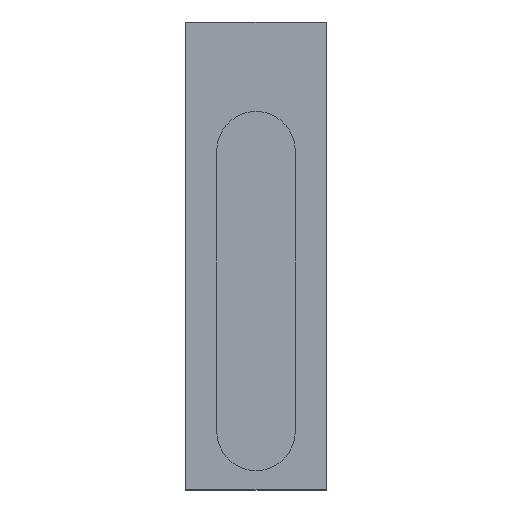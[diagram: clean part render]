
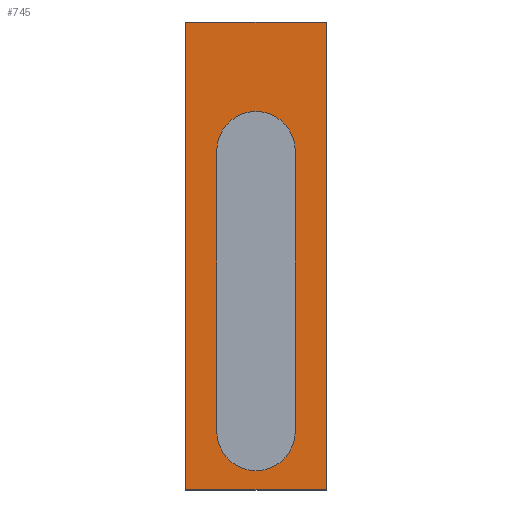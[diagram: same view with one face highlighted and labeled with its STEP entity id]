
A CAD part, top view. The second image highlights one B-rep face of the part: STEP entity #745.
In plain terms, the highlighted planar face has unit normal (0, 0, 1) as drawn and (0, 0, -1) by its records, which use the part's own axes.
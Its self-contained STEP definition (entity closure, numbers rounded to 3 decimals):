
#19 = ORIENTED_EDGE ( 'NONE', *, *, #489, .F. ) ;
#25 = CARTESIAN_POINT ( 'NONE',  ( 0., 0., 0. ) ) ;
#31 = EDGE_CURVE ( 'NONE', #137, #353, #334, .T. ) ;
#76 = AXIS2_PLACEMENT_3D ( 'NONE', #828, #498, #165 ) ;
#125 = CARTESIAN_POINT ( 'NONE',  ( 0.838, -3.75, 0. ) ) ;
#128 = LINE ( 'NONE', #389, #688 ) ;
#130 = CARTESIAN_POINT ( 'NONE',  ( 1.5, 5., 0. ) ) ;
#131 = EDGE_CURVE ( 'NONE', #697, #380, #154, .T. ) ;
#132 = CARTESIAN_POINT ( 'NONE',  ( -1.5, -5., 0. ) ) ;
#137 = VERTEX_POINT ( 'NONE', #636 ) ;
#142 = AXIS2_PLACEMENT_3D ( 'NONE', #25, #562, #696 ) ;
#154 = CIRCLE ( 'NONE', #429, 0.838 ) ;
#165 = DIRECTION ( 'NONE',  ( 1., 0., 0. ) ) ;
#169 = VECTOR ( 'NONE', #411, 1000. ) ;
#204 = ORIENTED_EDGE ( 'NONE', *, *, #31, .F. ) ;
#211 = CARTESIAN_POINT ( 'NONE',  ( 0.838, -3.75, 0. ) ) ;
#221 = ORIENTED_EDGE ( 'NONE', *, *, #812, .F. ) ;
#228 = ORIENTED_EDGE ( 'NONE', *, *, #131, .F. ) ;
#236 = CARTESIAN_POINT ( 'NONE',  ( -1.5, 5., 0. ) ) ;
#250 = DIRECTION ( 'NONE',  ( -1., 0., 0. ) ) ;
#266 = LINE ( 'NONE', #211, #715 ) ;
#284 = CIRCLE ( 'NONE', #76, 0.838 ) ;
#294 = CARTESIAN_POINT ( 'NONE',  ( -0.838, -3.75, 0. ) ) ;
#295 = VERTEX_POINT ( 'NONE', #798 ) ;
#334 = LINE ( 'NONE', #494, #169 ) ;
#350 = LINE ( 'NONE', #707, #647 ) ;
#351 = CARTESIAN_POINT ( 'NONE',  ( 0., 2.25, 0. ) ) ;
#353 = VERTEX_POINT ( 'NONE', #130 ) ;
#380 = VERTEX_POINT ( 'NONE', #852 ) ;
#385 = ORIENTED_EDGE ( 'NONE', *, *, #544, .F. ) ;
#386 = LINE ( 'NONE', #585, #840 ) ;
#389 = CARTESIAN_POINT ( 'NONE',  ( -1.5, 5., 0. ) ) ;
#393 = DIRECTION ( 'NONE',  ( 1., 0., 0. ) ) ;
#401 = DIRECTION ( 'NONE',  ( 0., -1., 0. ) ) ;
#411 = DIRECTION ( 'NONE',  ( 0., 1., 0. ) ) ;
#429 = AXIS2_PLACEMENT_3D ( 'NONE', #351, #628, #442 ) ;
#442 = DIRECTION ( 'NONE',  ( 1., 0., 0. ) ) ;
#445 = DIRECTION ( 'NONE',  ( 0., -1., 0. ) ) ;
#448 = VECTOR ( 'NONE', #393, 1000. ) ;
#461 = EDGE_CURVE ( 'NONE', #809, #697, #350, .T. ) ;
#465 = CARTESIAN_POINT ( 'NONE',  ( -0.838, 2.25, 0. ) ) ;
#484 = EDGE_LOOP ( 'NONE', ( #204, #830, #19, #385 ) ) ;
#486 = PLANE ( 'NONE',  #142 ) ;
#489 = EDGE_CURVE ( 'NONE', #760, #295, #386, .T. ) ;
#494 = CARTESIAN_POINT ( 'NONE',  ( 1.5, 5., 0. ) ) ;
#496 = VERTEX_POINT ( 'NONE', #125 ) ;
#498 = DIRECTION ( 'NONE',  ( 0., 0., -1. ) ) ;
#511 = ORIENTED_EDGE ( 'NONE', *, *, #461, .F. ) ;
#544 = EDGE_CURVE ( 'NONE', #353, #760, #128, .T. ) ;
#562 = DIRECTION ( 'NONE',  ( 0., 0., 1. ) ) ;
#571 = EDGE_LOOP ( 'NONE', ( #511, #221, #709, #228 ) ) ;
#585 = CARTESIAN_POINT ( 'NONE',  ( -1.5, 5., 0. ) ) ;
#628 = DIRECTION ( 'NONE',  ( 0., 0., -1. ) ) ;
#636 = CARTESIAN_POINT ( 'NONE',  ( 1.5, -5., 0. ) ) ;
#647 = VECTOR ( 'NONE', #650, 1000. ) ;
#650 = DIRECTION ( 'NONE',  ( 0., 1., 0. ) ) ;
#655 = EDGE_CURVE ( 'NONE', #380, #496, #266, .T. ) ;
#688 = VECTOR ( 'NONE', #250, 1000. ) ;
#696 = DIRECTION ( 'NONE',  ( 1., 0., 0. ) ) ;
#697 = VERTEX_POINT ( 'NONE', #465 ) ;
#698 = EDGE_CURVE ( 'NONE', #295, #137, #735, .T. ) ;
#707 = CARTESIAN_POINT ( 'NONE',  ( -0.838, -3.75, 0. ) ) ;
#709 = ORIENTED_EDGE ( 'NONE', *, *, #655, .F. ) ;
#715 = VECTOR ( 'NONE', #401, 1000. ) ;
#735 = LINE ( 'NONE', #132, #448 ) ;
#745 = ADVANCED_FACE ( 'NONE', ( #758, #836 ), #486, .F. ) ;
#758 = FACE_BOUND ( 'NONE', #571, .T. ) ;
#760 = VERTEX_POINT ( 'NONE', #236 ) ;
#798 = CARTESIAN_POINT ( 'NONE',  ( -1.5, -5., 0. ) ) ;
#809 = VERTEX_POINT ( 'NONE', #294 ) ;
#812 = EDGE_CURVE ( 'NONE', #496, #809, #284, .T. ) ;
#828 = CARTESIAN_POINT ( 'NONE',  ( 0., -3.75, 0. ) ) ;
#830 = ORIENTED_EDGE ( 'NONE', *, *, #698, .F. ) ;
#836 = FACE_OUTER_BOUND ( 'NONE', #484, .T. ) ;
#840 = VECTOR ( 'NONE', #445, 1000. ) ;
#852 = CARTESIAN_POINT ( 'NONE',  ( 0.838, 2.25, 0. ) ) ;
